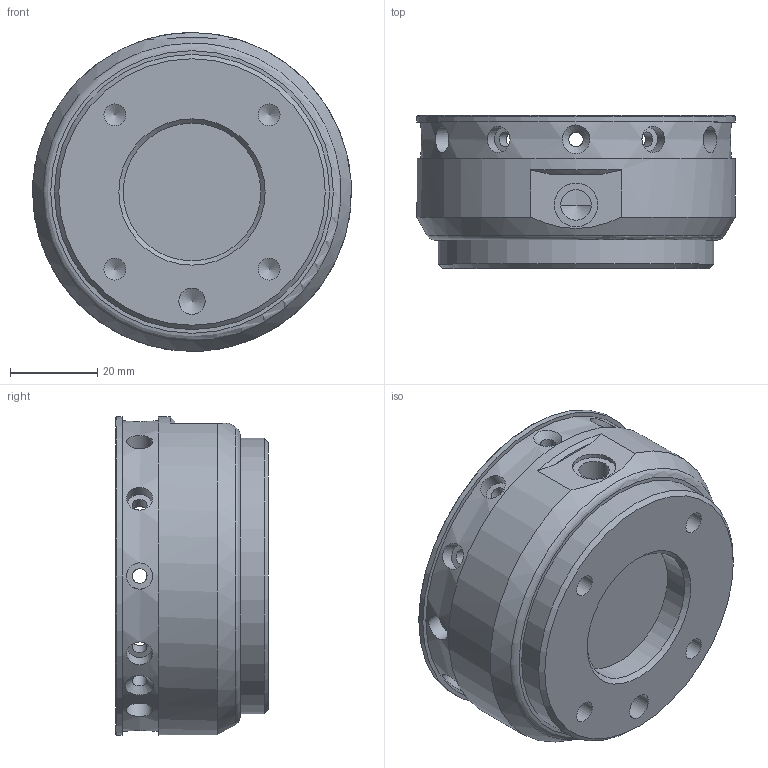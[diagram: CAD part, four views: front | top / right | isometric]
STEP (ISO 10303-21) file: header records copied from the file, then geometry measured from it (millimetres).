
FILE_DESCRIPTION (( 'STEP AP214' ), '1' );
FILE_NAME ('2-054-006 3kg﹜5kg藺傷楊擘.STEP', '2026-05-21T03:40:42', ( 'Windows User' ), ( 'P R C' ), 'SwSTEP 2.0', 'SolidWorks 2021', '' );
FILE_SCHEMA (( 'AUTOMOTIVE_DESIGN' ));
Length unit declared in the file: millimetre
Products named in the file (1): 2-054-006 3kg﹜5kg藺傷楊擘
Bounding box: 73 x 35 x 73 mm (x, y, z)
Volume: 84156.4 mm3; surface area: 21855.7 mm2
Topology: 1 solids, 1 shells, 78 faces, 177 edges, 115 vertices
Faces by surface type: cylinder 39, plane 22, cone 16, torus 1
Full cylindrical faces by diameter (mm): 3.4 x14, 5 x4, 6 x12, 7 x1, 10 x1, 31.5 x1, 45 x1, 58 x1, 63 x1, 71 x1, 73 x2
Entity records: 3514 total; most frequent: CARTESIAN_POINT 1926, DIRECTION 289, ORIENTED_EDGE 202, EDGE_LOOP 179, AXIS2_PLACEMENT_3D 141, FACE_OUTER_BOUND 118, EDGE_CURVE 101, VERTEX_POINT 96
